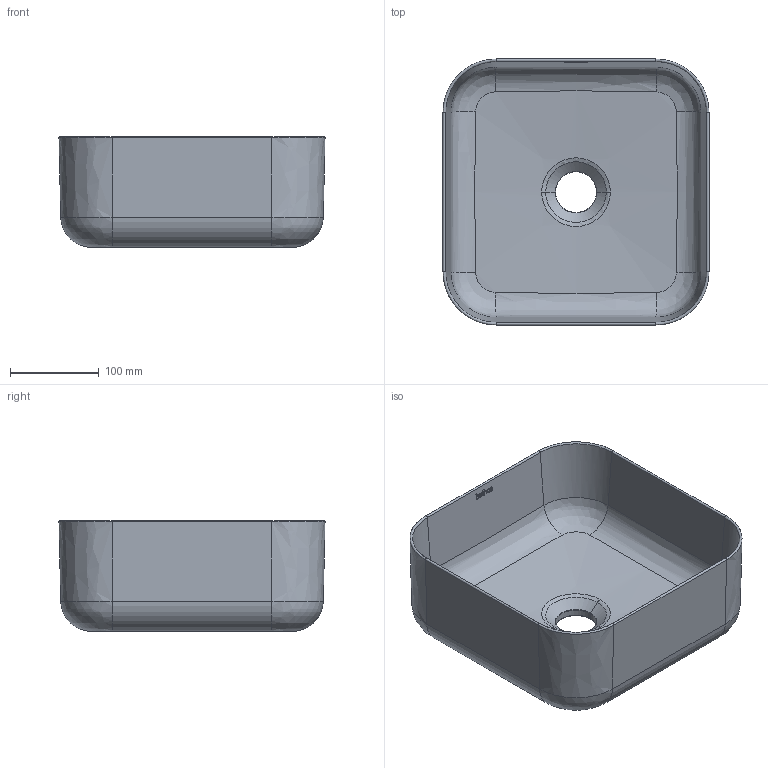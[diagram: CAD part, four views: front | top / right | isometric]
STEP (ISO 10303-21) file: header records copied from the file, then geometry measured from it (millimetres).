
FILE_DESCRIPTION(/* description */ (''),/* implementation_level */ '2;1');
FILE_NAME(/* name */ '4917_4919_4920_CUBE 30',/* time_stamp */ '2025-04-01T12:12:36+02:00',/* author */ (''),/* organization */ (''),/* preprocessor_version */ 'ST-DEVELOPER v19.2',/* originating_system */ 'Rhino 8.17',/* authorisation */ '');
FILE_SCHEMA (('CONFIG_CONTROL_DESIGN'));
Length unit declared in the file: millimetre
Products named in the file (1): Document
Bounding box: 300 x 300 x 125 mm (x, y, z)
Volume: 2461264.6 mm3; surface area: 373950.7 mm2
Topology: 7 solids, 7 shells, 120 faces, 278 edges, 172 vertices
Faces by surface type: plane 59, bspline 55, cylinder 6
Entity records: 7045 total; most frequent: CARTESIAN_POINT 5024, ORIENTED_EDGE 556, EDGE_CURVE 278, B_SPLINE_CURVE_WITH_KNOTS 186, VERTEX_POINT 172, EDGE_LOOP 128, DIRECTION 123, ADVANCED_FACE 120
